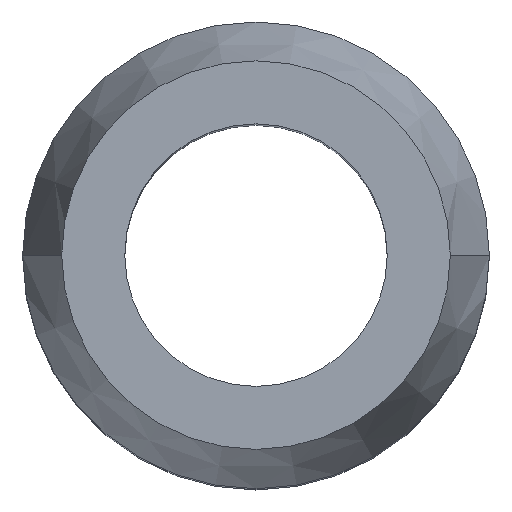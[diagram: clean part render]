
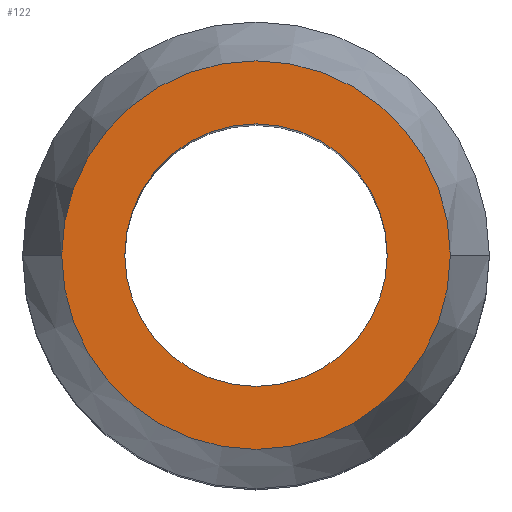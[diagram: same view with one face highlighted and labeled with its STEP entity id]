
A CAD part, top view. The second image highlights one B-rep face of the part: STEP entity #122.
In plain terms, the highlighted planar face has unit normal (0, 0, 1).
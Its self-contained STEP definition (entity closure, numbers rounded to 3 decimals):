
#103=PLANE('',#314);
#108=FACE_BOUND('',#153,.T.);
#109=FACE_BOUND('',#154,.T.);
#122=ADVANCED_FACE('',(#108,#109),#103,.T.);
#153=EDGE_LOOP('',(#219,#220));
#154=EDGE_LOOP('',(#221,#222));
#156=CIRCLE('',#287,4.5);
#157=CIRCLE('',#289,4.5);
#169=CIRCLE('',#310,6.66);
#170=CIRCLE('',#312,6.66);
#219=ORIENTED_EDGE('',*,*,#264,.T.);
#220=ORIENTED_EDGE('',*,*,#262,.T.);
#221=ORIENTED_EDGE('',*,*,#242,.F.);
#222=ORIENTED_EDGE('',*,*,#243,.F.);
#223=VERTEX_POINT('',#387);
#226=VERTEX_POINT('',#392);
#237=VERTEX_POINT('',#433);
#238=VERTEX_POINT('',#435);
#242=EDGE_CURVE('',#226,#223,#156,.T.);
#243=EDGE_CURVE('',#223,#226,#157,.T.);
#262=EDGE_CURVE('',#238,#237,#169,.T.);
#264=EDGE_CURVE('',#237,#238,#170,.T.);
#287=AXIS2_PLACEMENT_3D('',#393,#321,#322);
#289=AXIS2_PLACEMENT_3D('',#395,#325,#326);
#310=AXIS2_PLACEMENT_3D('',#434,#374,#375);
#312=AXIS2_PLACEMENT_3D('',#438,#379,#380);
#314=AXIS2_PLACEMENT_3D('',#440,#383,#384);
#321=DIRECTION('',(0.,0.,1.));
#322=DIRECTION('',(0.,-1.,0.));
#325=DIRECTION('',(0.,0.,1.));
#326=DIRECTION('',(0.,1.,0.));
#374=DIRECTION('',(0.,0.,1.));
#375=DIRECTION('',(0.,-1.,0.));
#379=DIRECTION('',(0.,0.,1.));
#380=DIRECTION('',(0.,1.,0.));
#383=DIRECTION('',(0.,0.,1.));
#384=DIRECTION('',(0.,1.,0.));
#387=CARTESIAN_POINT('',(-4.5,0.,30.));
#392=CARTESIAN_POINT('',(4.5,0.,30.));
#393=CARTESIAN_POINT('',(0.,0.,30.));
#395=CARTESIAN_POINT('',(0.,0.,30.));
#433=CARTESIAN_POINT('',(-6.66,0.,30.));
#434=CARTESIAN_POINT('',(0.,0.,30.));
#435=CARTESIAN_POINT('',(6.66,0.,30.));
#438=CARTESIAN_POINT('',(0.,0.,30.));
#440=CARTESIAN_POINT('',(0.,0.,30.));
